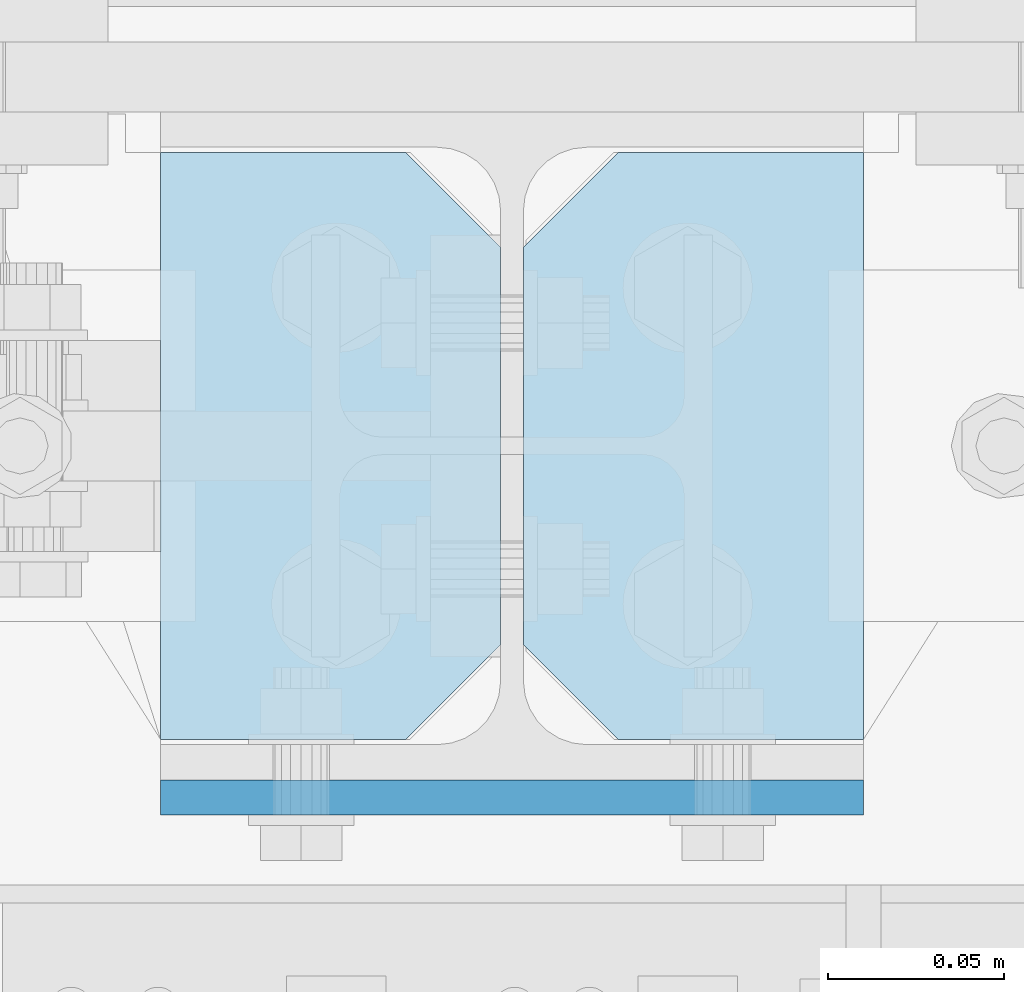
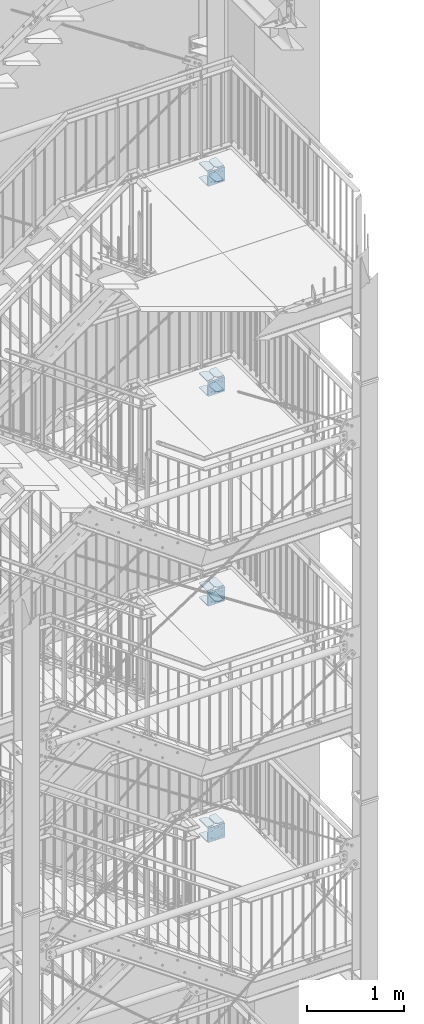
# One storey, part 214 of 817: 19 plates, 62 openings.
"""IFC2X3 building model written with IfcOpenShell, lengths in millimetres."""

from ifc_helpers import new_model, entity, si_unit, converted_unit, frame, origin, origin_with_axes, origin_2d_with_axis, place, context, project, spatial, polyline, circle, outline, extrude, material, layer, layer_set, element, save


model = new_model("IFC2X3")

# Units and contexts
model_context = context("Model", 3, precision=1e-09, world=origin_with_axes())
ifc_project = project(units=[si_unit("LENGTHUNIT", "METRE", prefix="MILLI"), si_unit("AREAUNIT", "SQUARE_METRE"), si_unit("VOLUMEUNIT", "CUBIC_METRE"), converted_unit("PLANEANGLEUNIT", "DEGREE", entity("IfcPlaneAngleMeasure", 0.01745329), si_unit("PLANEANGLEUNIT", "RADIAN"), dimensions=[0, 0, 0, 0, 0, 0, 0])], contexts=[model_context])

# Site, building, storey
site_placement = place(None, origin_with_axes())
site = spatial("IfcSite", under=ifc_project, at=site_placement, Name="Cnopf'sche Kinderklinik", CompositionType="ELEMENT")
building_placement = place(site_placement, origin_with_axes())
building = spatial("IfcBuilding", under=site, at=building_placement, Name="Struktur 1", CompositionType="ELEMENT")
storey_placement = place(building_placement, origin_with_axes())
storey = spatial("IfcBuildingStorey", under=building, at=storey_placement, Name="Default Storey", CompositionType="ELEMENT", Elevation=0.0)

# Plate, openings
ifc_material = material(Name="S235JR")
ifc_layer = layer(ifc_material, 10.0)
ifc_layer_set = layer_set([ifc_layer], Name="S235JR")
plate_1_placement = place(None, frame((8866.713402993, 7411.736971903, 13561.5000001), z_axis=(0.0, 1.0, 0.0), x_axis=(0.0, 0.0, -1.0)))
plate_1 = element("IfcPlate", 1, at=plate_1_placement, inside=storey, material=ifc_layer_set, Name="Endplate", ObjectType="Endplate", context=model_context, shape_type="SweptSolid", body=[
    extrude(outline(polyline([(-90.0, -100.0), (90.0, -100.0), (90.0, 100.0), (-90.0, 100.0), (-90.0, -100.0)])), origin_with_axes(), (0.0, 0.0, 1.0), 10.0),
])
opening_1_placement = place(plate_1_placement, frame((-67.0, 21.25, 10.5), z_axis=(0.0, 0.0, -1.0), x_axis=(-1.0, 0.0, 0.0)))
element("IfcOpeningElement", 2, at=opening_1_placement, cuts=plate_1, ObjectType="Opening", context=model_context, shape_type="SweptSolid", body=[
    extrude(circle(Radius=6.001, at=origin_2d_with_axis()), origin(), (0.0, 0.0, 1.0), 11.0),
])
opening_2_placement = place(plate_1_placement, frame((67.0, 21.25, 10.5), z_axis=(0.0, 0.0, -1.0), x_axis=(-1.0, 0.0, 0.0)))
element("IfcOpeningElement", 3, at=opening_2_placement, cuts=plate_1, ObjectType="Opening", context=model_context, shape_type="SweptSolid", body=[
    extrude(circle(Radius=6.001, at=origin_2d_with_axis()), origin(), (0.0, 0.0, 1.0), 11.0),
])
opening_3_placement = place(plate_1_placement, frame((67.0, -21.25, 10.5), z_axis=(0.0, 0.0, -1.0), x_axis=(-1.0, 0.0, 0.0)))
element("IfcOpeningElement", 4, at=opening_3_placement, cuts=plate_1, ObjectType="Opening", context=model_context, shape_type="SweptSolid", body=[
    extrude(circle(Radius=6.001, at=origin_2d_with_axis()), origin(), (0.0, 0.0, 1.0), 11.0),
])
opening_4_placement = place(plate_1_placement, frame((-67.0, -21.25, 10.5), z_axis=(0.0, 0.0, -1.0), x_axis=(-1.0, 0.0, 0.0)))
element("IfcOpeningElement", 5, at=opening_4_placement, cuts=plate_1, ObjectType="Opening", context=model_context, shape_type="SweptSolid", body=[
    extrude(circle(Radius=6.001, at=origin_2d_with_axis()), origin(), (0.0, 0.0, 1.0), 11.0),
])
opening_5_placement = place(plate_1_placement, frame((45.0, -60.0, 10.5), z_axis=(0.0, 0.0, -1.0), x_axis=(0.0, -1.0, 0.0)))
element("IfcOpeningElement", 6, at=opening_5_placement, cuts=plate_1, ObjectType="Opening", context=model_context, shape_type="SweptSolid", body=[
    extrude(circle(Radius=9.001, at=origin_2d_with_axis()), origin(), (0.0, 0.0, 1.0), 11.0),
])
opening_6_placement = place(plate_1_placement, frame((-45.0, -60.0, 10.5), z_axis=(0.0, 0.0, -1.0), x_axis=(0.0, -1.0, 0.0)))
element("IfcOpeningElement", 7, at=opening_6_placement, cuts=plate_1, ObjectType="Opening", context=model_context, shape_type="SweptSolid", body=[
    extrude(circle(Radius=9.001, at=origin_2d_with_axis()), origin(), (0.0, 0.0, 1.0), 11.0),
])
opening_7_placement = place(plate_1_placement, frame((45.0, 60.0, 10.5), z_axis=(0.0, 0.0, -1.0), x_axis=(0.0, 1.0, 0.0)))
element("IfcOpeningElement", 8, at=opening_7_placement, cuts=plate_1, ObjectType="Opening", context=model_context, shape_type="SweptSolid", body=[
    extrude(circle(Radius=9.001, at=origin_2d_with_axis()), origin(), (0.0, 0.0, 1.0), 11.0),
])
opening_8_placement = place(plate_1_placement, frame((-45.0, 60.0, 10.5), z_axis=(0.0, 0.0, -1.0), x_axis=(0.0, 1.0, 0.0)))
element("IfcOpeningElement", 9, at=opening_8_placement, cuts=plate_1, ObjectType="Opening", context=model_context, shape_type="SweptSolid", body=[
    extrude(circle(Radius=9.001, at=origin_2d_with_axis()), origin(), (0.0, 0.0, 1.0), 11.0),
])

plate_2_placement = place(None, frame((8766.713402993, 7433.236971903, 13646.5000001), z_axis=(0.0, 0.0, 1.0), x_axis=(1.0, 0.0, 0.0)))
plate_2 = element("IfcPlate", 10, at=plate_2_placement, inside=storey, material=ifc_layer_set, Name="Stiffener#1", ObjectType="Stiffener#1", context=model_context, shape_type="SweptSolid", body=[
    extrude(outline(polyline([(0.0, 0.0), (96.75, 0.0), (96.75, 167.0), (0.0, 167.0), (0.0, 0.0)])), origin_with_axes(), (0.0, 0.0, 1.0), 10.0),
])
opening_9_placement = place(plate_2_placement, frame((0.0, 0.0, -0.01), z_axis=(0.0, 0.0, 1.0), x_axis=(1.0, 0.0, 0.0)))
element("IfcOpeningElement", 11, at=opening_9_placement, cuts=plate_2, ObjectType="Opening", context=model_context, shape_type="SweptSolid", body=[
    extrude(outline(polyline([(96.75, 167.0), (69.75, 167.0), (96.75, 140.0), (96.75, 167.0)])), origin(), (0.0, 0.0, 1.0), 10.02),
])
opening_10_placement = place(plate_2_placement, frame((0.0, 0.0, -0.01), z_axis=(0.0, 0.0, 1.0), x_axis=(1.0, 0.0, 0.0)))
element("IfcOpeningElement", 12, at=opening_10_placement, cuts=plate_2, ObjectType="Opening", context=model_context, shape_type="SweptSolid", body=[
    extrude(outline(polyline([(96.75, 0.0), (96.75, 27.0), (69.75, 0.0), (96.75, 0.0)])), origin(), (0.0, 0.0, 1.0), 10.02),
])

plate_3_placement = place(None, frame((8869.963402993, 7433.236971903, 13646.5000001), z_axis=(0.0, 0.0, 1.0), x_axis=(1.0, 0.0, 0.0)))
plate_3 = element("IfcPlate", 13, at=plate_3_placement, inside=storey, material=ifc_layer_set, Name="Stiffener#2", ObjectType="Stiffener#2", context=model_context, shape_type="SweptSolid", body=[
    extrude(outline(polyline([(0.0, 0.0), (96.75, 0.0), (96.75, 167.0), (0.0, 167.0), (0.0, 0.0)])), origin_with_axes(), (0.0, 0.0, 1.0), 10.0),
])
opening_11_placement = place(plate_3_placement, frame((0.0, 0.0, -0.01), z_axis=(0.0, 0.0, 1.0), x_axis=(1.0, 0.0, 0.0)))
element("IfcOpeningElement", 14, at=opening_11_placement, cuts=plate_3, ObjectType="Opening", context=model_context, shape_type="SweptSolid", body=[
    extrude(outline(polyline([(0.0, 167.0), (0.0, 140.0), (27.0, 167.0), (0.0, 167.0)])), origin(), (0.0, 0.0, 1.0), 10.02),
])
opening_12_placement = place(plate_3_placement, frame((0.0, 0.0, -0.01), z_axis=(0.0, 0.0, 1.0), x_axis=(1.0, 0.0, 0.0)))
element("IfcOpeningElement", 15, at=opening_12_placement, cuts=plate_3, ObjectType="Opening", context=model_context, shape_type="SweptSolid", body=[
    extrude(outline(polyline([(0.0, 0.0), (27.0, 0.0), (0.0, 27.0), (0.0, 0.0)])), origin(), (0.0, 0.0, 1.0), 10.02),
])

plate_4_placement = place(None, frame((8863.463402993, 7433.236971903, 13476.5000001), z_axis=(0.0, 0.0, -1.0), x_axis=(-1.0, 0.0, 0.0)))
plate_4 = element("IfcPlate", 16, at=plate_4_placement, inside=storey, material=ifc_layer_set, Name="Stiffener#3", ObjectType="Stiffener#3", context=model_context, shape_type="SweptSolid", body=[
    extrude(outline(polyline([(0.0, 0.0), (96.75, 0.0), (96.75, 167.0), (0.0, 167.0), (0.0, 0.0)])), origin_with_axes(), (0.0, 0.0, 1.0), 10.0),
])
opening_13_placement = place(plate_4_placement, frame((0.0, 0.0, -0.01), z_axis=(0.0, 0.0, 1.0), x_axis=(1.0, 0.0, 0.0)))
element("IfcOpeningElement", 17, at=opening_13_placement, cuts=plate_4, ObjectType="Opening", context=model_context, shape_type="SweptSolid", body=[
    extrude(outline(polyline([(0.0, 167.0), (0.0, 140.0), (27.0, 167.0), (0.0, 167.0)])), origin(), (0.0, 0.0, 1.0), 10.02),
])
opening_14_placement = place(plate_4_placement, frame((0.0, 0.0, -0.01), z_axis=(0.0, 0.0, 1.0), x_axis=(1.0, 0.0, 0.0)))
element("IfcOpeningElement", 18, at=opening_14_placement, cuts=plate_4, ObjectType="Opening", context=model_context, shape_type="SweptSolid", body=[
    extrude(outline(polyline([(0.0, 0.0), (27.0, 0.0), (0.0, 27.0), (0.0, 0.0)])), origin(), (0.0, 0.0, 1.0), 10.02),
])

plate_5_placement = place(None, frame((8966.713402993, 7433.236971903, 13476.5000001), z_axis=(0.0, 0.0, -1.0), x_axis=(-1.0, 0.0, 0.0)))
plate_5 = element("IfcPlate", 19, at=plate_5_placement, inside=storey, material=ifc_layer_set, Name="Stiffener#4", ObjectType="Stiffener#4", context=model_context, shape_type="SweptSolid", body=[
    extrude(outline(polyline([(0.0, 0.0), (96.75, 0.0), (96.75, 167.0), (0.0, 167.0), (0.0, 0.0)])), origin_with_axes(), (0.0, 0.0, 1.0), 10.0),
])
opening_15_placement = place(plate_5_placement, frame((0.0, 0.0, -0.01), z_axis=(0.0, 0.0, 1.0), x_axis=(1.0, 0.0, 0.0)))
element("IfcOpeningElement", 20, at=opening_15_placement, cuts=plate_5, ObjectType="Opening", context=model_context, shape_type="SweptSolid", body=[
    extrude(outline(polyline([(96.75, 167.0), (69.75, 167.0), (96.75, 140.0), (96.75, 167.0)])), origin(), (0.0, 0.0, 1.0), 10.02),
])
opening_16_placement = place(plate_5_placement, frame((0.0, 0.0, -0.01), z_axis=(0.0, 0.0, 1.0), x_axis=(1.0, 0.0, 0.0)))
element("IfcOpeningElement", 21, at=opening_16_placement, cuts=plate_5, ObjectType="Opening", context=model_context, shape_type="SweptSolid", body=[
    extrude(outline(polyline([(96.75, 0.0), (96.75, 27.0), (69.75, 0.0), (96.75, 0.0)])), origin(), (0.0, 0.0, 1.0), 10.02),
])

plate_6_placement = place(None, frame((8866.713402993, 7411.736971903, 10930.5000003), z_axis=(0.0, 1.0, 0.0), x_axis=(0.0, 0.0, -1.0)))
plate_6 = element("IfcPlate", 22, at=plate_6_placement, inside=storey, material=ifc_layer_set, Name="Endplate", ObjectType="Endplate", context=model_context, shape_type="SweptSolid", body=[
    extrude(outline(polyline([(-90.0, -100.0), (90.0, -100.0), (90.0, 100.0), (-90.0, 100.0), (-90.0, -100.0)])), origin_with_axes(), (0.0, 0.0, 1.0), 10.0),
])
opening_17_placement = place(plate_6_placement, frame((-67.0, 21.25, 10.5), z_axis=(0.0, 0.0, -1.0), x_axis=(-1.0, 0.0, 0.0)))
element("IfcOpeningElement", 23, at=opening_17_placement, cuts=plate_6, ObjectType="Opening", context=model_context, shape_type="SweptSolid", body=[
    extrude(circle(Radius=6.001, at=origin_2d_with_axis()), origin(), (0.0, 0.0, 1.0), 11.0),
])
opening_18_placement = place(plate_6_placement, frame((67.0, 21.25, 10.5), z_axis=(0.0, 0.0, -1.0), x_axis=(-1.0, 0.0, 0.0)))
element("IfcOpeningElement", 24, at=opening_18_placement, cuts=plate_6, ObjectType="Opening", context=model_context, shape_type="SweptSolid", body=[
    extrude(circle(Radius=6.001, at=origin_2d_with_axis()), origin(), (0.0, 0.0, 1.0), 11.0),
])
opening_19_placement = place(plate_6_placement, frame((67.0, -21.25, 10.5), z_axis=(0.0, 0.0, -1.0), x_axis=(-1.0, 0.0, 0.0)))
element("IfcOpeningElement", 25, at=opening_19_placement, cuts=plate_6, ObjectType="Opening", context=model_context, shape_type="SweptSolid", body=[
    extrude(circle(Radius=6.001, at=origin_2d_with_axis()), origin(), (0.0, 0.0, 1.0), 11.0),
])
opening_20_placement = place(plate_6_placement, frame((-67.0, -21.25, 10.5), z_axis=(0.0, 0.0, -1.0), x_axis=(-1.0, 0.0, 0.0)))
element("IfcOpeningElement", 26, at=opening_20_placement, cuts=plate_6, ObjectType="Opening", context=model_context, shape_type="SweptSolid", body=[
    extrude(circle(Radius=6.001, at=origin_2d_with_axis()), origin(), (0.0, 0.0, 1.0), 11.0),
])
opening_21_placement = place(plate_6_placement, frame((-45.0, 60.0, 10.5), z_axis=(0.0, 0.0, -1.0), x_axis=(0.0, 1.0, 0.0)))
element("IfcOpeningElement", 27, at=opening_21_placement, cuts=plate_6, ObjectType="Opening", context=model_context, shape_type="SweptSolid", body=[
    extrude(circle(Radius=9.001, at=origin_2d_with_axis()), origin(), (0.0, 0.0, 1.0), 11.0),
])
opening_22_placement = place(plate_6_placement, frame((45.0, -60.0, 10.5), z_axis=(0.0, 0.0, -1.0), x_axis=(0.0, -1.0, 0.0)))
element("IfcOpeningElement", 28, at=opening_22_placement, cuts=plate_6, ObjectType="Opening", context=model_context, shape_type="SweptSolid", body=[
    extrude(circle(Radius=9.001, at=origin_2d_with_axis()), origin(), (0.0, 0.0, 1.0), 11.0),
])
opening_23_placement = place(plate_6_placement, frame((45.0, 60.0, 10.5), z_axis=(0.0, 0.0, -1.0), x_axis=(0.0, 1.0, 0.0)))
element("IfcOpeningElement", 29, at=opening_23_placement, cuts=plate_6, ObjectType="Opening", context=model_context, shape_type="SweptSolid", body=[
    extrude(circle(Radius=9.001, at=origin_2d_with_axis()), origin(), (0.0, 0.0, 1.0), 11.0),
])
opening_24_placement = place(plate_6_placement, frame((-45.0, -60.0, 10.5), z_axis=(0.0, 0.0, -1.0), x_axis=(0.0, -1.0, 0.0)))
element("IfcOpeningElement", 30, at=opening_24_placement, cuts=plate_6, ObjectType="Opening", context=model_context, shape_type="SweptSolid", body=[
    extrude(circle(Radius=9.001, at=origin_2d_with_axis()), origin(), (0.0, 0.0, 1.0), 11.0),
])

plate_7_placement = place(None, frame((8766.713402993, 7433.236971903, 11015.5000003), z_axis=(0.0, 0.0, 1.0), x_axis=(1.0, 0.0, 0.0)))
plate_7 = element("IfcPlate", 31, at=plate_7_placement, inside=storey, material=ifc_layer_set, Name="Stiffener#1", ObjectType="Stiffener#1", context=model_context, shape_type="SweptSolid", body=[
    extrude(outline(polyline([(0.0, 0.0), (96.75, 0.0), (96.75, 167.0), (0.0, 167.0), (0.0, 0.0)])), origin_with_axes(), (0.0, 0.0, 1.0), 10.0),
])
opening_25_placement = place(plate_7_placement, frame((0.0, 0.0, -0.01), z_axis=(0.0, 0.0, 1.0), x_axis=(1.0, 0.0, 0.0)))
element("IfcOpeningElement", 32, at=opening_25_placement, cuts=plate_7, ObjectType="Opening", context=model_context, shape_type="SweptSolid", body=[
    extrude(outline(polyline([(96.75, 167.0), (69.75, 167.0), (96.75, 140.0), (96.75, 167.0)])), origin(), (0.0, 0.0, 1.0), 10.02),
])
opening_26_placement = place(plate_7_placement, frame((0.0, 0.0, -0.01), z_axis=(0.0, 0.0, 1.0), x_axis=(1.0, 0.0, 0.0)))
element("IfcOpeningElement", 33, at=opening_26_placement, cuts=plate_7, ObjectType="Opening", context=model_context, shape_type="SweptSolid", body=[
    extrude(outline(polyline([(96.75, 0.0), (96.75, 27.0), (69.75, 0.0), (96.75, 0.0)])), origin(), (0.0, 0.0, 1.0), 10.02),
])

plate_8_placement = place(None, frame((8869.963402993, 7433.236971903, 11015.5000003), z_axis=(0.0, 0.0, 1.0), x_axis=(1.0, 0.0, 0.0)))
plate_8 = element("IfcPlate", 34, at=plate_8_placement, inside=storey, material=ifc_layer_set, Name="Stiffener#2", ObjectType="Stiffener#2", context=model_context, shape_type="SweptSolid", body=[
    extrude(outline(polyline([(0.0, 0.0), (96.75, 0.0), (96.75, 167.0), (0.0, 167.0), (0.0, 0.0)])), origin_with_axes(), (0.0, 0.0, 1.0), 10.0),
])
opening_27_placement = place(plate_8_placement, frame((0.0, 0.0, -0.01), z_axis=(0.0, 0.0, 1.0), x_axis=(1.0, 0.0, 0.0)))
element("IfcOpeningElement", 35, at=opening_27_placement, cuts=plate_8, ObjectType="Opening", context=model_context, shape_type="SweptSolid", body=[
    extrude(outline(polyline([(0.0, 167.0), (0.0, 140.0), (27.0, 167.0), (0.0, 167.0)])), origin(), (0.0, 0.0, 1.0), 10.02),
])
opening_28_placement = place(plate_8_placement, frame((0.0, 0.0, -0.01), z_axis=(0.0, 0.0, 1.0), x_axis=(1.0, 0.0, 0.0)))
element("IfcOpeningElement", 36, at=opening_28_placement, cuts=plate_8, ObjectType="Opening", context=model_context, shape_type="SweptSolid", body=[
    extrude(outline(polyline([(0.0, 0.0), (27.0, 0.0), (0.0, 27.0), (0.0, 0.0)])), origin(), (0.0, 0.0, 1.0), 10.02),
])

plate_9_placement = place(None, frame((8863.463402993, 7433.236971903, 10845.5000003), z_axis=(0.0, 0.0, -1.0), x_axis=(-1.0, 0.0, 0.0)))
plate_9 = element("IfcPlate", 37, at=plate_9_placement, inside=storey, material=ifc_layer_set, Name="Stiffener#3", ObjectType="Stiffener#3", context=model_context, shape_type="SweptSolid", body=[
    extrude(outline(polyline([(0.0, 0.0), (96.75, 0.0), (96.75, 167.0), (0.0, 167.0), (0.0, 0.0)])), origin_with_axes(), (0.0, 0.0, 1.0), 10.0),
])
opening_29_placement = place(plate_9_placement, frame((0.0, 0.0, -0.01), z_axis=(0.0, 0.0, 1.0), x_axis=(1.0, 0.0, 0.0)))
element("IfcOpeningElement", 38, at=opening_29_placement, cuts=plate_9, ObjectType="Opening", context=model_context, shape_type="SweptSolid", body=[
    extrude(outline(polyline([(0.0, 167.0), (0.0, 140.0), (27.0, 167.0), (0.0, 167.0)])), origin(), (0.0, 0.0, 1.0), 10.02),
])
opening_30_placement = place(plate_9_placement, frame((0.0, 0.0, -0.01), z_axis=(0.0, 0.0, 1.0), x_axis=(1.0, 0.0, 0.0)))
element("IfcOpeningElement", 39, at=opening_30_placement, cuts=plate_9, ObjectType="Opening", context=model_context, shape_type="SweptSolid", body=[
    extrude(outline(polyline([(0.0, 0.0), (27.0, 0.0), (0.0, 27.0), (0.0, 0.0)])), origin(), (0.0, 0.0, 1.0), 10.02),
])

plate_10_placement = place(None, frame((8966.713402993, 7433.236971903, 10845.5000003), z_axis=(0.0, 0.0, -1.0), x_axis=(-1.0, 0.0, 0.0)))
plate_10 = element("IfcPlate", 40, at=plate_10_placement, inside=storey, material=ifc_layer_set, Name="Stiffener#4", ObjectType="Stiffener#4", context=model_context, shape_type="SweptSolid", body=[
    extrude(outline(polyline([(0.0, 0.0), (96.75, 0.0), (96.75, 167.0), (0.0, 167.0), (0.0, 0.0)])), origin_with_axes(), (0.0, 0.0, 1.0), 10.0),
])
opening_31_placement = place(plate_10_placement, frame((0.0, 0.0, -0.01), z_axis=(0.0, 0.0, 1.0), x_axis=(1.0, 0.0, 0.0)))
element("IfcOpeningElement", 41, at=opening_31_placement, cuts=plate_10, ObjectType="Opening", context=model_context, shape_type="SweptSolid", body=[
    extrude(outline(polyline([(96.75, 167.0), (69.75, 167.0), (96.75, 140.0), (96.75, 167.0)])), origin(), (0.0, 0.0, 1.0), 10.02),
])
opening_32_placement = place(plate_10_placement, frame((0.0, 0.0, -0.01), z_axis=(0.0, 0.0, 1.0), x_axis=(1.0, 0.0, 0.0)))
element("IfcOpeningElement", 42, at=opening_32_placement, cuts=plate_10, ObjectType="Opening", context=model_context, shape_type="SweptSolid", body=[
    extrude(outline(polyline([(96.75, 0.0), (96.75, 27.0), (69.75, 0.0), (96.75, 0.0)])), origin(), (0.0, 0.0, 1.0), 10.02),
])

plate_11_placement = place(None, frame((8866.713402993, 7411.736971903, 8301.0), z_axis=(0.0, 1.0, 0.0), x_axis=(0.0, 0.0, -1.0)))
plate_11 = element("IfcPlate", 43, at=plate_11_placement, inside=storey, material=ifc_layer_set, Name="Endplate", ObjectType="Endplate", context=model_context, shape_type="SweptSolid", body=[
    extrude(outline(polyline([(-90.0, -100.0), (90.0, -100.0), (90.0, 100.0), (-90.0, 100.0), (-90.0, -100.0)])), origin_with_axes(), (0.0, 0.0, 1.0), 10.0),
])
opening_33_placement = place(plate_11_placement, frame((-67.0, 21.25, 10.5), z_axis=(0.0, 0.0, -1.0), x_axis=(-1.0, 0.0, 0.0)))
element("IfcOpeningElement", 44, at=opening_33_placement, cuts=plate_11, ObjectType="Opening", context=model_context, shape_type="SweptSolid", body=[
    extrude(circle(Radius=6.001, at=origin_2d_with_axis()), origin(), (0.0, 0.0, 1.0), 11.0),
])
opening_34_placement = place(plate_11_placement, frame((67.0, 21.25, 10.5), z_axis=(0.0, 0.0, -1.0), x_axis=(-1.0, 0.0, 0.0)))
element("IfcOpeningElement", 45, at=opening_34_placement, cuts=plate_11, ObjectType="Opening", context=model_context, shape_type="SweptSolid", body=[
    extrude(circle(Radius=6.001, at=origin_2d_with_axis()), origin(), (0.0, 0.0, 1.0), 11.0),
])
opening_35_placement = place(plate_11_placement, frame((67.0, -21.25, 10.5), z_axis=(0.0, 0.0, -1.0), x_axis=(-1.0, 0.0, 0.0)))
element("IfcOpeningElement", 46, at=opening_35_placement, cuts=plate_11, ObjectType="Opening", context=model_context, shape_type="SweptSolid", body=[
    extrude(circle(Radius=6.001, at=origin_2d_with_axis()), origin(), (0.0, 0.0, 1.0), 11.0),
])
opening_36_placement = place(plate_11_placement, frame((-67.0, -21.25, 10.5), z_axis=(0.0, 0.0, -1.0), x_axis=(-1.0, 0.0, 0.0)))
element("IfcOpeningElement", 47, at=opening_36_placement, cuts=plate_11, ObjectType="Opening", context=model_context, shape_type="SweptSolid", body=[
    extrude(circle(Radius=6.001, at=origin_2d_with_axis()), origin(), (0.0, 0.0, 1.0), 11.0),
])
opening_37_placement = place(plate_11_placement, frame((-45.0, -60.0, 10.5), z_axis=(0.0, 0.0, -1.0), x_axis=(0.0, -1.0, 0.0)))
element("IfcOpeningElement", 48, at=opening_37_placement, cuts=plate_11, ObjectType="Opening", context=model_context, shape_type="SweptSolid", body=[
    extrude(circle(Radius=9.001, at=origin_2d_with_axis()), origin(), (0.0, 0.0, 1.0), 11.0),
])
opening_38_placement = place(plate_11_placement, frame((45.0, -60.0, 10.5), z_axis=(0.0, 0.0, -1.0), x_axis=(0.0, -1.0, 0.0)))
element("IfcOpeningElement", 49, at=opening_38_placement, cuts=plate_11, ObjectType="Opening", context=model_context, shape_type="SweptSolid", body=[
    extrude(circle(Radius=9.001, at=origin_2d_with_axis()), origin(), (0.0, 0.0, 1.0), 11.0),
])
opening_39_placement = place(plate_11_placement, frame((-45.0, 60.0, 10.5), z_axis=(0.0, 0.0, -1.0), x_axis=(0.0, 1.0, 0.0)))
element("IfcOpeningElement", 50, at=opening_39_placement, cuts=plate_11, ObjectType="Opening", context=model_context, shape_type="SweptSolid", body=[
    extrude(circle(Radius=9.001, at=origin_2d_with_axis()), origin(), (0.0, 0.0, 1.0), 11.0),
])
opening_40_placement = place(plate_11_placement, frame((45.0, 60.0, 10.5), z_axis=(0.0, 0.0, -1.0), x_axis=(0.0, 1.0, 0.0)))
element("IfcOpeningElement", 51, at=opening_40_placement, cuts=plate_11, ObjectType="Opening", context=model_context, shape_type="SweptSolid", body=[
    extrude(circle(Radius=9.001, at=origin_2d_with_axis()), origin(), (0.0, 0.0, 1.0), 11.0),
])

plate_12_placement = place(None, frame((8766.713402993, 7433.236971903, 8386.0), z_axis=(0.0, 0.0, 1.0), x_axis=(1.0, 0.0, 0.0)))
plate_12 = element("IfcPlate", 52, at=plate_12_placement, inside=storey, material=ifc_layer_set, Name="Stiffener#1", ObjectType="Stiffener#1", context=model_context, shape_type="SweptSolid", body=[
    extrude(outline(polyline([(0.0, 0.0), (96.75, 0.0), (96.75, 167.0), (0.0, 167.0), (0.0, 0.0)])), origin_with_axes(), (0.0, 0.0, 1.0), 10.0),
])
opening_41_placement = place(plate_12_placement, frame((0.0, 0.0, -0.01), z_axis=(0.0, 0.0, 1.0), x_axis=(1.0, 0.0, 0.0)))
element("IfcOpeningElement", 53, at=opening_41_placement, cuts=plate_12, ObjectType="Opening", context=model_context, shape_type="SweptSolid", body=[
    extrude(outline(polyline([(96.75, 167.0), (69.75, 167.0), (96.75, 140.0), (96.75, 167.0)])), origin(), (0.0, 0.0, 1.0), 10.02),
])
opening_42_placement = place(plate_12_placement, frame((0.0, 0.0, -0.01), z_axis=(0.0, 0.0, 1.0), x_axis=(1.0, 0.0, 0.0)))
element("IfcOpeningElement", 54, at=opening_42_placement, cuts=plate_12, ObjectType="Opening", context=model_context, shape_type="SweptSolid", body=[
    extrude(outline(polyline([(96.75, 0.0), (96.75, 27.0), (69.75, 0.0), (96.75, 0.0)])), origin(), (0.0, 0.0, 1.0), 10.02),
])

plate_13_placement = place(None, frame((8869.963402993, 7433.236971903, 8386.0), z_axis=(0.0, 0.0, 1.0), x_axis=(1.0, 0.0, 0.0)))
plate_13 = element("IfcPlate", 55, at=plate_13_placement, inside=storey, material=ifc_layer_set, Name="Stiffener#2", ObjectType="Stiffener#2", context=model_context, shape_type="SweptSolid", body=[
    extrude(outline(polyline([(0.0, 0.0), (96.75, 0.0), (96.75, 167.0), (0.0, 167.0), (0.0, 0.0)])), origin_with_axes(), (0.0, 0.0, 1.0), 10.0),
])
opening_43_placement = place(plate_13_placement, frame((0.0, 0.0, -0.01), z_axis=(0.0, 0.0, 1.0), x_axis=(1.0, 0.0, 0.0)))
element("IfcOpeningElement", 56, at=opening_43_placement, cuts=plate_13, ObjectType="Opening", context=model_context, shape_type="SweptSolid", body=[
    extrude(outline(polyline([(0.0, 167.0), (0.0, 140.0), (27.0, 167.0), (0.0, 167.0)])), origin(), (0.0, 0.0, 1.0), 10.02),
])
opening_44_placement = place(plate_13_placement, frame((0.0, 0.0, -0.01), z_axis=(0.0, 0.0, 1.0), x_axis=(1.0, 0.0, 0.0)))
element("IfcOpeningElement", 57, at=opening_44_placement, cuts=plate_13, ObjectType="Opening", context=model_context, shape_type="SweptSolid", body=[
    extrude(outline(polyline([(0.0, 0.0), (27.0, 0.0), (0.0, 27.0), (0.0, 0.0)])), origin(), (0.0, 0.0, 1.0), 10.02),
])

plate_14_placement = place(None, frame((8863.463402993, 7433.236971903, 8216.0), z_axis=(0.0, 0.0, -1.0), x_axis=(-1.0, 0.0, 0.0)))
plate_14 = element("IfcPlate", 58, at=plate_14_placement, inside=storey, material=ifc_layer_set, Name="Stiffener#3", ObjectType="Stiffener#3", context=model_context, shape_type="SweptSolid", body=[
    extrude(outline(polyline([(0.0, 0.0), (96.75, 0.0), (96.75, 167.0), (0.0, 167.0), (0.0, 0.0)])), origin_with_axes(), (0.0, 0.0, 1.0), 10.0),
])
opening_45_placement = place(plate_14_placement, frame((0.0, 0.0, -0.01), z_axis=(0.0, 0.0, 1.0), x_axis=(1.0, 0.0, 0.0)))
element("IfcOpeningElement", 59, at=opening_45_placement, cuts=plate_14, ObjectType="Opening", context=model_context, shape_type="SweptSolid", body=[
    extrude(outline(polyline([(0.0, 167.0), (0.0, 140.0), (27.0, 167.0), (0.0, 167.0)])), origin(), (0.0, 0.0, 1.0), 10.02),
])
opening_46_placement = place(plate_14_placement, frame((0.0, 0.0, -0.01), z_axis=(0.0, 0.0, 1.0), x_axis=(1.0, 0.0, 0.0)))
element("IfcOpeningElement", 60, at=opening_46_placement, cuts=plate_14, ObjectType="Opening", context=model_context, shape_type="SweptSolid", body=[
    extrude(outline(polyline([(0.0, 0.0), (27.0, 0.0), (0.0, 27.0), (0.0, 0.0)])), origin(), (0.0, 0.0, 1.0), 10.02),
])

plate_15_placement = place(None, frame((8966.713402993, 7433.236971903, 8216.0), z_axis=(0.0, 0.0, -1.0), x_axis=(-1.0, 0.0, 0.0)))
plate_15 = element("IfcPlate", 61, at=plate_15_placement, inside=storey, material=ifc_layer_set, Name="Stiffener#4", ObjectType="Stiffener#4", context=model_context, shape_type="SweptSolid", body=[
    extrude(outline(polyline([(0.0, 0.0), (96.75, 0.0), (96.75, 167.0), (0.0, 167.0), (0.0, 0.0)])), origin_with_axes(), (0.0, 0.0, 1.0), 10.0),
])
opening_47_placement = place(plate_15_placement, frame((0.0, 0.0, -0.01), z_axis=(0.0, 0.0, 1.0), x_axis=(1.0, 0.0, 0.0)))
element("IfcOpeningElement", 62, at=opening_47_placement, cuts=plate_15, ObjectType="Opening", context=model_context, shape_type="SweptSolid", body=[
    extrude(outline(polyline([(96.75, 167.0), (69.75, 167.0), (96.75, 140.0), (96.75, 167.0)])), origin(), (0.0, 0.0, 1.0), 10.02),
])
opening_48_placement = place(plate_15_placement, frame((0.0, 0.0, -0.01), z_axis=(0.0, 0.0, 1.0), x_axis=(1.0, 0.0, 0.0)))
element("IfcOpeningElement", 63, at=opening_48_placement, cuts=plate_15, ObjectType="Opening", context=model_context, shape_type="SweptSolid", body=[
    extrude(outline(polyline([(96.75, 0.0), (96.75, 27.0), (69.75, 0.0), (96.75, 0.0)])), origin(), (0.0, 0.0, 1.0), 10.02),
])

plate_16_placement = place(None, frame((8866.713402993, 7411.736971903, 5339.8947367), z_axis=(0.0, 1.0, 0.0), x_axis=(0.0, 0.0, -1.0)))
plate_16 = element("IfcPlate", 64, at=plate_16_placement, inside=storey, material=ifc_layer_set, Name="Endplate", ObjectType="Endplate", context=model_context, shape_type="SweptSolid", body=[
    extrude(outline(polyline([(-90.0, -100.0), (90.0, -100.0), (90.0, 100.0), (-90.0, 100.0), (-90.0, -100.0)])), origin_with_axes(), (0.0, 0.0, 1.0), 10.0),
])
opening_49_placement = place(plate_16_placement, frame((-67.0, 21.25, 10.5), z_axis=(0.0, 0.0, -1.0), x_axis=(-1.0, 0.0, 0.0)))
element("IfcOpeningElement", 65, at=opening_49_placement, cuts=plate_16, ObjectType="Opening", context=model_context, shape_type="SweptSolid", body=[
    extrude(circle(Radius=6.001, at=origin_2d_with_axis()), origin(), (0.0, 0.0, 1.0), 11.0),
])
opening_50_placement = place(plate_16_placement, frame((67.0, 21.25, 10.5), z_axis=(0.0, 0.0, -1.0), x_axis=(-1.0, 0.0, 0.0)))
element("IfcOpeningElement", 66, at=opening_50_placement, cuts=plate_16, ObjectType="Opening", context=model_context, shape_type="SweptSolid", body=[
    extrude(circle(Radius=6.001, at=origin_2d_with_axis()), origin(), (0.0, 0.0, 1.0), 11.0),
])
opening_51_placement = place(plate_16_placement, frame((67.0, -21.25, 10.5), z_axis=(0.0, 0.0, -1.0), x_axis=(-1.0, 0.0, 0.0)))
element("IfcOpeningElement", 67, at=opening_51_placement, cuts=plate_16, ObjectType="Opening", context=model_context, shape_type="SweptSolid", body=[
    extrude(circle(Radius=6.001, at=origin_2d_with_axis()), origin(), (0.0, 0.0, 1.0), 11.0),
])
opening_52_placement = place(plate_16_placement, frame((-67.0, -21.25, 10.5), z_axis=(0.0, 0.0, -1.0), x_axis=(-1.0, 0.0, 0.0)))
element("IfcOpeningElement", 68, at=opening_52_placement, cuts=plate_16, ObjectType="Opening", context=model_context, shape_type="SweptSolid", body=[
    extrude(circle(Radius=6.001, at=origin_2d_with_axis()), origin(), (0.0, 0.0, 1.0), 11.0),
])
opening_53_placement = place(plate_16_placement, frame((45.0, 60.0, 10.5), z_axis=(0.0, 0.0, -1.0), x_axis=(0.0, 1.0, 0.0)))
element("IfcOpeningElement", 69, at=opening_53_placement, cuts=plate_16, ObjectType="Opening", context=model_context, shape_type="SweptSolid", body=[
    extrude(circle(Radius=9.001, at=origin_2d_with_axis()), origin(), (0.0, 0.0, 1.0), 11.0),
])
opening_54_placement = place(plate_16_placement, frame((-45.0, -60.0, 10.5), z_axis=(0.0, 0.0, -1.0), x_axis=(0.0, -1.0, 0.0)))
element("IfcOpeningElement", 70, at=opening_54_placement, cuts=plate_16, ObjectType="Opening", context=model_context, shape_type="SweptSolid", body=[
    extrude(circle(Radius=9.001, at=origin_2d_with_axis()), origin(), (0.0, 0.0, 1.0), 11.0),
])
opening_55_placement = place(plate_16_placement, frame((-45.0, 60.0, 10.5), z_axis=(0.0, 0.0, -1.0), x_axis=(0.0, 1.0, 0.0)))
element("IfcOpeningElement", 71, at=opening_55_placement, cuts=plate_16, ObjectType="Opening", context=model_context, shape_type="SweptSolid", body=[
    extrude(circle(Radius=9.001, at=origin_2d_with_axis()), origin(), (0.0, 0.0, 1.0), 11.0),
])
opening_56_placement = place(plate_16_placement, frame((45.0, -60.0, 10.5), z_axis=(0.0, 0.0, -1.0), x_axis=(0.0, -1.0, 0.0)))
element("IfcOpeningElement", 72, at=opening_56_placement, cuts=plate_16, ObjectType="Opening", context=model_context, shape_type="SweptSolid", body=[
    extrude(circle(Radius=9.001, at=origin_2d_with_axis()), origin(), (0.0, 0.0, 1.0), 11.0),
])

plate_17_placement = place(None, frame((8766.713402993, 7433.236971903, 5424.8947367), z_axis=(0.0, 0.0, 1.0), x_axis=(1.0, 0.0, 0.0)))
plate_17 = element("IfcPlate", 73, at=plate_17_placement, inside=storey, material=ifc_layer_set, Name="Stiffener#1", ObjectType="Stiffener#1", context=model_context, shape_type="SweptSolid", body=[
    extrude(outline(polyline([(0.0, 0.0), (96.75, 0.0), (96.75, 167.0), (0.0, 167.0), (0.0, 0.0)])), origin_with_axes(), (0.0, 0.0, 1.0), 10.0),
])
opening_57_placement = place(plate_17_placement, frame((0.0, 0.0, -0.01), z_axis=(0.0, 0.0, 1.0), x_axis=(1.0, 0.0, 0.0)))
element("IfcOpeningElement", 74, at=opening_57_placement, cuts=plate_17, ObjectType="Opening", context=model_context, shape_type="SweptSolid", body=[
    extrude(outline(polyline([(96.75, 167.0), (69.75, 167.0), (96.75, 140.0), (96.75, 167.0)])), origin(), (0.0, 0.0, 1.0), 10.02),
])
opening_58_placement = place(plate_17_placement, frame((0.0, 0.0, -0.01), z_axis=(0.0, 0.0, 1.0), x_axis=(1.0, 0.0, 0.0)))
element("IfcOpeningElement", 75, at=opening_58_placement, cuts=plate_17, ObjectType="Opening", context=model_context, shape_type="SweptSolid", body=[
    extrude(outline(polyline([(96.75, 0.0), (96.75, 27.0), (69.75, 0.0), (96.75, 0.0)])), origin(), (0.0, 0.0, 1.0), 10.02),
])

plate_18_placement = place(None, frame((8869.963402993, 7433.236971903, 5424.8947367), z_axis=(0.0, 0.0, 1.0), x_axis=(1.0, 0.0, 0.0)))
plate_18 = element("IfcPlate", 76, at=plate_18_placement, inside=storey, material=ifc_layer_set, Name="Stiffener#2", ObjectType="Stiffener#2", context=model_context, shape_type="SweptSolid", body=[
    extrude(outline(polyline([(0.0, 0.0), (96.75, 0.0), (96.75, 167.0), (0.0, 167.0), (0.0, 0.0)])), origin_with_axes(), (0.0, 0.0, 1.0), 10.0),
])
opening_59_placement = place(plate_18_placement, frame((0.0, 0.0, -0.01), z_axis=(0.0, 0.0, 1.0), x_axis=(1.0, 0.0, 0.0)))
element("IfcOpeningElement", 77, at=opening_59_placement, cuts=plate_18, ObjectType="Opening", context=model_context, shape_type="SweptSolid", body=[
    extrude(outline(polyline([(0.0, 167.0), (0.0, 140.0), (27.0, 167.0), (0.0, 167.0)])), origin(), (0.0, 0.0, 1.0), 10.02),
])
opening_60_placement = place(plate_18_placement, frame((0.0, 0.0, -0.01), z_axis=(0.0, 0.0, 1.0), x_axis=(1.0, 0.0, 0.0)))
element("IfcOpeningElement", 78, at=opening_60_placement, cuts=plate_18, ObjectType="Opening", context=model_context, shape_type="SweptSolid", body=[
    extrude(outline(polyline([(0.0, 0.0), (27.0, 0.0), (0.0, 27.0), (0.0, 0.0)])), origin(), (0.0, 0.0, 1.0), 10.02),
])

plate_19_placement = place(None, frame((8863.463402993, 7433.236971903, 5254.8947367), z_axis=(0.0, 0.0, -1.0), x_axis=(-1.0, 0.0, 0.0)))
plate_19 = element("IfcPlate", 79, at=plate_19_placement, inside=storey, material=ifc_layer_set, Name="Stiffener#3", ObjectType="Stiffener#3", context=model_context, shape_type="SweptSolid", body=[
    extrude(outline(polyline([(0.0, 0.0), (96.75, 0.0), (96.75, 167.0), (0.0, 167.0), (0.0, 0.0)])), origin_with_axes(), (0.0, 0.0, 1.0), 10.0),
])
opening_61_placement = place(plate_19_placement, frame((0.0, 0.0, -0.01), z_axis=(0.0, 0.0, 1.0), x_axis=(1.0, 0.0, 0.0)))
element("IfcOpeningElement", 80, at=opening_61_placement, cuts=plate_19, ObjectType="Opening", context=model_context, shape_type="SweptSolid", body=[
    extrude(outline(polyline([(0.0, 167.0), (0.0, 140.0), (27.0, 167.0), (0.0, 167.0)])), origin(), (0.0, 0.0, 1.0), 10.02),
])
opening_62_placement = place(plate_19_placement, frame((0.0, 0.0, -0.01), z_axis=(0.0, 0.0, 1.0), x_axis=(1.0, 0.0, 0.0)))
element("IfcOpeningElement", 81, at=opening_62_placement, cuts=plate_19, ObjectType="Opening", context=model_context, shape_type="SweptSolid", body=[
    extrude(outline(polyline([(0.0, 0.0), (27.0, 0.0), (0.0, 27.0), (0.0, 0.0)])), origin(), (0.0, 0.0, 1.0), 10.02),
])

save(model, "model.ifc")
